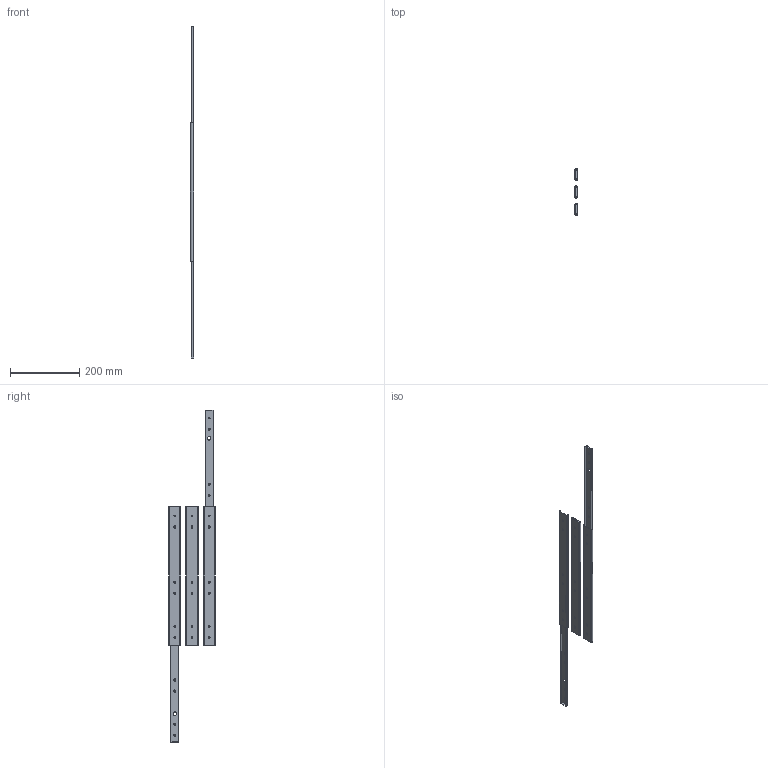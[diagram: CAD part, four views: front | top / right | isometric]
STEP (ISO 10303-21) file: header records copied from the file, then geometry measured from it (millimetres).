
FILE_DESCRIPTION((''),'2;1');
FILE_NAME('D:\01 WORK\DIST\02172A-Drawings for website\2026\DZ2026\STEP\2026-0040 3d open & closed for website.stp','2012-10-03T14:03:55',('jthatch'),(''),'Autodesk Inventor 2012','Autodesk Inventor 2012','');
FILE_SCHEMA(('AUTOMOTIVE_DESIGN { 1 0 10303 214 1 1 1 1 }'));
Length unit declared in the file: millimetre
Products named in the file (3): 2026-0040 3d open & closed for website; 2026-0030 3d Outer member for website; 2026-0030  3d Inner member for website
Assembly tree (6 placements, depth 2):
  2026-0040 3d open & closed for website
    2026-0030 3d Outer member for website  x3
    2026-0030  3d Inner member for website  x3
Bounding box: 9.5 x 135.28 x 961.8 mm (x, y, z)
Volume: 134526.8 mm3; surface area: 201382.2 mm2
Topology: 6 solids, 6 shells, 216 faces, 615 edges, 411 vertices
Faces by surface type: plane 132, cylinder 84
Full cylindrical faces by diameter (mm): 4.3 x6, 10 x6
Entity records: 2494 total; most frequent: DIRECTION 418, CARTESIAN_POINT 417, ORIENTED_EDGE 400, EDGE_CURVE 200, VECTOR 144, LINE 144, AXIS2_PLACEMENT_3D 137, VERTEX_POINT 136
